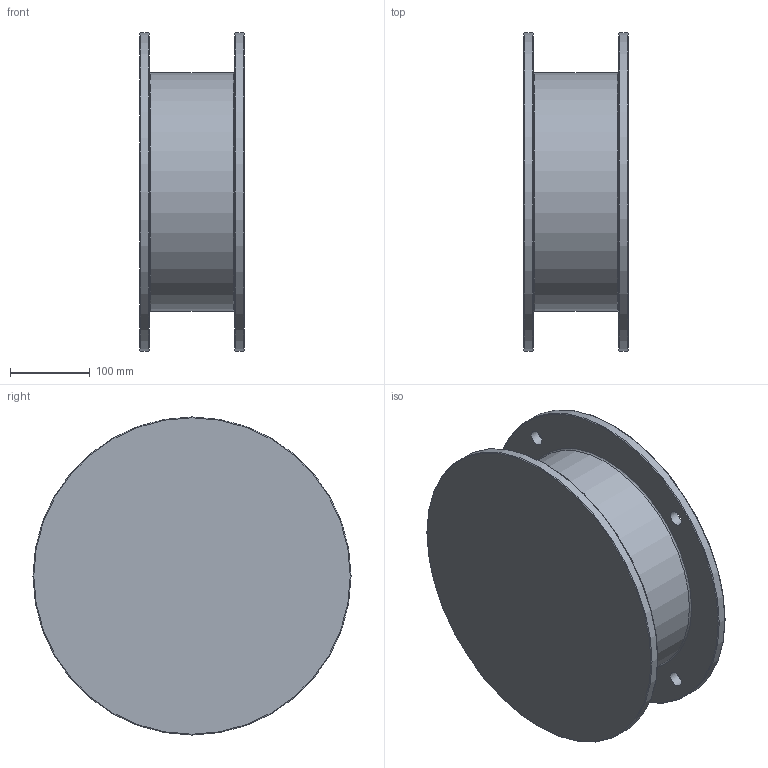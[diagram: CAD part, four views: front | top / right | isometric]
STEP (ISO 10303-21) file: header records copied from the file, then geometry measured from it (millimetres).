
FILE_DESCRIPTION((''),'2;1');
FILE_NAME('D:\PAWEŁ\ZLECENIA\2011 DualSystem\Przekładnie DR\DR130\STEP\200_B5_L131,5.stp','2012-06-11T12:49:02',('admin'),(''),'Autodesk Inventor 2009','Autodesk Inventor 2009','');
FILE_SCHEMA(('AUTOMOTIVE_DESIGN { 1 0 10303 214 1 1 1 1 }'));
Length unit declared in the file: millimetre
Products named in the file (1): 200_B5_L131,5
Bounding box: 131.5 x 400 x 400 mm (x, y, z)
Volume: 3165076.6 mm3; surface area: 646318.6 mm2
Topology: 1 solids, 1 shells, 29 faces, 56 edges, 35 vertices
Faces by surface type: plane 11, cylinder 7, bspline 6, torus 5
Full cylindrical faces by diameter (mm): 85 x1, 288 x1, 300 x2, 400 x2
Entity records: 857 total; most frequent: CARTESIAN_POINT 260, DIRECTION 116, ORIENTED_EDGE 78, EDGE_LOOP 60, AXIS2_PLACEMENT_3D 53, EDGE_CURVE 39, VERTEX_POINT 35, FACE_BOUND 31
